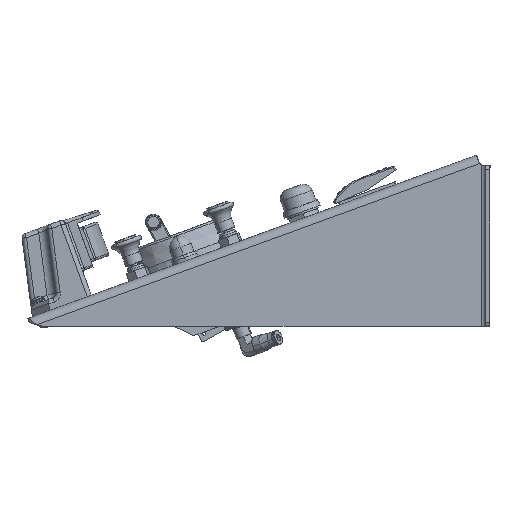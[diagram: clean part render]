
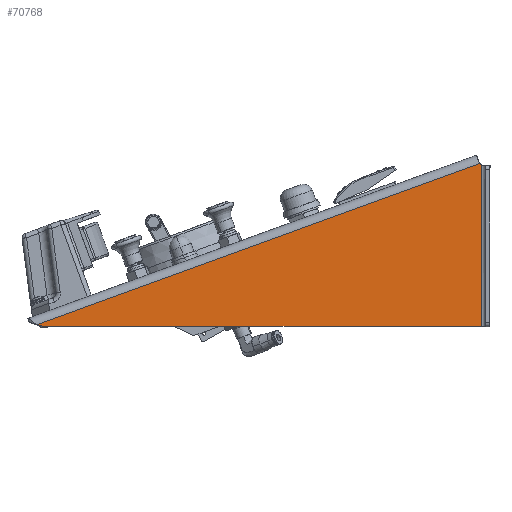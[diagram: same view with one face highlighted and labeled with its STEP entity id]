
A CAD part, left-side view. The second image highlights one B-rep face of the part: STEP entity #70768.
In plain terms, the highlighted planar face has unit normal (-1, 0, 0).
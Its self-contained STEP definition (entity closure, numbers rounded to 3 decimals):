
#3113 = DIRECTION ( 'NONE',  ( -1., 0., 0. ) ) ;
#6624 = CARTESIAN_POINT ( 'NONE',  ( -107.95, -3.243, -5.892 ) ) ;
#9768 = CARTESIAN_POINT ( 'NONE',  ( -107.95, 306.675, -108.169 ) ) ;
#9965 = DIRECTION ( 'NONE',  ( 0., 0.94, -0.342 ) ) ;
#13674 = AXIS2_PLACEMENT_3D ( 'NONE', #40189, #114890, #50913 ) ;
#16472 = CIRCLE ( 'NONE', #119152, 3.175 ) ;
#20488 = DIRECTION ( 'NONE',  ( 0., -0.94, 0.342 ) ) ;
#23814 = DIRECTION ( 'NONE',  ( 0., -1., -0.002 ) ) ;
#30925 = CARTESIAN_POINT ( 'NONE',  ( -107.95, -8.139, -3.795 ) ) ;
#31639 = AXIS2_PLACEMENT_3D ( 'NONE', #9768, #84321, #20488 ) ;
#39640 = CARTESIAN_POINT ( 'NONE',  ( -107.95, -3.243, -121.454 ) ) ;
#40189 = CARTESIAN_POINT ( 'NONE',  ( -107.95, -7.053, -0.812 ) ) ;
#41221 = EDGE_CURVE ( 'NONE', #94841, #136996, #49203, .T. ) ;
#41724 = VECTOR ( 'NONE', #113385, 1000. ) ;
#45019 = EDGE_LOOP ( 'NONE', ( #99357, #45983, #66144, #82855, #94546 ) ) ;
#45983 = ORIENTED_EDGE ( 'NONE', *, *, #58301, .T. ) ;
#49203 = CIRCLE ( 'NONE', #31639, 12.7 ) ;
#50913 = DIRECTION ( 'NONE',  ( 0., 0., 1. ) ) ;
#51889 = VERTEX_POINT ( 'NONE', #39640 ) ;
#53537 = EDGE_CURVE ( 'NONE', #106329, #91775, #16472, .T. ) ;
#57684 = LINE ( 'NONE', #30925, #97593 ) ;
#58301 = EDGE_CURVE ( 'NONE', #94841, #51889, #75363, .T. ) ;
#66144 = ORIENTED_EDGE ( 'NONE', *, *, #120761, .F. ) ;
#67011 = CARTESIAN_POINT ( 'NONE',  ( -107.95, -4.83, -3.987 ) ) ;
#70148 = LINE ( 'NONE', #6624, #41724 ) ;
#70768 = ADVANCED_FACE ( 'NONE', ( #125387 ), #136063, .T. ) ;
#71994 = VECTOR ( 'NONE', #23814, 1000. ) ;
#75363 = LINE ( 'NONE', #87212, #71994 ) ;
#77750 = DIRECTION ( 'NONE',  ( 0., -0.94, 0.342 ) ) ;
#81560 = EDGE_CURVE ( 'NONE', #106329, #136996, #57684, .T. ) ;
#82855 = ORIENTED_EDGE ( 'NONE', *, *, #53537, .F. ) ;
#84321 = DIRECTION ( 'NONE',  ( 1., 0., 0. ) ) ;
#87212 = CARTESIAN_POINT ( 'NONE',  ( -107.95, -6.825, -121.461 ) ) ;
#91775 = VERTEX_POINT ( 'NONE', #130917 ) ;
#94546 = ORIENTED_EDGE ( 'NONE', *, *, #81560, .T. ) ;
#94841 = VERTEX_POINT ( 'NONE', #119740 ) ;
#95900 = CARTESIAN_POINT ( 'NONE',  ( -107.95, -2.309, -5.917 ) ) ;
#97593 = VECTOR ( 'NONE', #9965, 1000. ) ;
#99357 = ORIENTED_EDGE ( 'NONE', *, *, #41221, .F. ) ;
#106329 = VERTEX_POINT ( 'NONE', #95900 ) ;
#113385 = DIRECTION ( 'NONE',  ( 0., 0., -1. ) ) ;
#114890 = DIRECTION ( 'NONE',  ( -1., 0., 0. ) ) ;
#119152 = AXIS2_PLACEMENT_3D ( 'NONE', #67011, #3113, #77750 ) ;
#119740 = CARTESIAN_POINT ( 'NONE',  ( -107.95, 306.699, -120.869 ) ) ;
#120761 = EDGE_CURVE ( 'NONE', #91775, #51889, #70148, .T. ) ;
#121576 = CARTESIAN_POINT ( 'NONE',  ( -107.95, 311.214, -120.03 ) ) ;
#125387 = FACE_OUTER_BOUND ( 'NONE', #45019, .T. ) ;
#130917 = CARTESIAN_POINT ( 'NONE',  ( -107.95, -3.243, -6.737 ) ) ;
#136063 = PLANE ( 'NONE',  #13674 ) ;
#136996 = VERTEX_POINT ( 'NONE', #121576 ) ;
